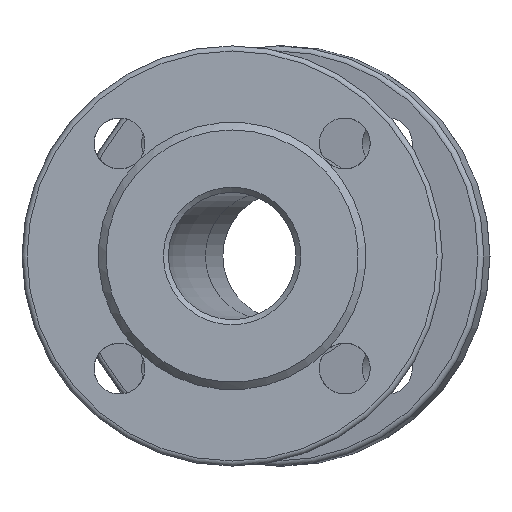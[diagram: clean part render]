
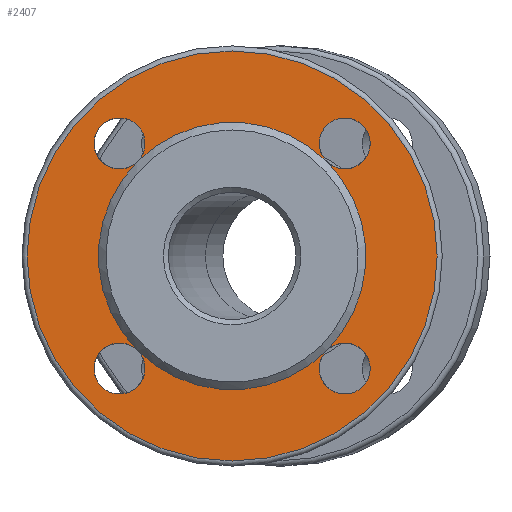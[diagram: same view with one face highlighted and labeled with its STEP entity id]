
A CAD part, left-side view. The second image highlights one B-rep face of the part: STEP entity #2407.
In plain terms, the highlighted planar face has unit normal (-1, 0, 0).
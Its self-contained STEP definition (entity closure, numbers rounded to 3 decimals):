
#76 = EDGE_CURVE ( 'NONE', #3378, #2873, #197, .T. ) ;
#121 = EDGE_CURVE ( 'NONE', #2873, #3102, #927, .T. ) ;
#129 = CIRCLE ( 'NONE', #2744, 10. ) ;
#183 = AXIS2_PLACEMENT_3D ( 'NONE', #574, #2111, #2461 ) ;
#197 = CIRCLE ( 'NONE', #3066, 52.5 ) ;
#230 = CARTESIAN_POINT ( 'NONE',  ( 3., 37.123, -37.123 ) ) ;
#350 = EDGE_CURVE ( 'NONE', #3378, #3378, #1103, .T. ) ;
#426 = CARTESIAN_POINT ( 'NONE',  ( 3., -37.123, -37.123 ) ) ;
#544 = FACE_OUTER_BOUND ( 'NONE', #4730, .T. ) ;
#556 = CARTESIAN_POINT ( 'NONE',  ( 3., -44.194, -44.194 ) ) ;
#574 = CARTESIAN_POINT ( 'NONE',  ( 3., 0., 0. ) ) ;
#676 = DIRECTION ( 'NONE',  ( 0., 0., -1. ) ) ;
#685 = VERTEX_POINT ( 'NONE', #3893 ) ;
#697 = DIRECTION ( 'NONE',  ( 1., 0., 0. ) ) ;
#777 = AXIS2_PLACEMENT_3D ( 'NONE', #556, #2196, #3320 ) ;
#786 = CARTESIAN_POINT ( 'NONE',  ( 3., 44.194, -44.194 ) ) ;
#918 = CARTESIAN_POINT ( 'NONE',  ( 3., 37.123, 37.123 ) ) ;
#927 = CIRCLE ( 'NONE', #4269, 52.5 ) ;
#941 = AXIS2_PLACEMENT_3D ( 'NONE', #1470, #4572, #4213 ) ;
#1080 = AXIS2_PLACEMENT_3D ( 'NONE', #1908, #3413, #4619 ) ;
#1103 = CIRCLE ( 'NONE', #2167, 10. ) ;
#1186 = AXIS2_PLACEMENT_3D ( 'NONE', #3464, #697, #1886 ) ;
#1236 = DIRECTION ( 'NONE',  ( 0., 0., 1. ) ) ;
#1422 = DIRECTION ( 'NONE',  ( -1., 0., 0. ) ) ;
#1470 = CARTESIAN_POINT ( 'NONE',  ( 3., 0., 0. ) ) ;
#1637 = ORIENTED_EDGE ( 'NONE', *, *, #3561, .T. ) ;
#1791 = EDGE_CURVE ( 'NONE', #4836, #4836, #3719, .T. ) ;
#1827 = CIRCLE ( 'NONE', #1080, 52.5 ) ;
#1829 = ORIENTED_EDGE ( 'NONE', *, *, #350, .F. ) ;
#1862 = EDGE_CURVE ( 'NONE', #4836, #3378, #2179, .T. ) ;
#1886 = DIRECTION ( 'NONE',  ( 0., 0., -1. ) ) ;
#1908 = CARTESIAN_POINT ( 'NONE',  ( 3., 0., 0. ) ) ;
#2067 = DIRECTION ( 'NONE',  ( 0., 0., 1. ) ) ;
#2106 = FACE_BOUND ( 'NONE', #4564, .T. ) ;
#2111 = DIRECTION ( 'NONE',  ( -1., 0., 0. ) ) ;
#2167 = AXIS2_PLACEMENT_3D ( 'NONE', #2220, #1422, #3667 ) ;
#2179 = CIRCLE ( 'NONE', #941, 52.5 ) ;
#2196 = DIRECTION ( 'NONE',  ( -1., 0., 0. ) ) ;
#2220 = CARTESIAN_POINT ( 'NONE',  ( 3., 44.194, 44.194 ) ) ;
#2356 = DIRECTION ( 'NONE',  ( -1., 0., 0. ) ) ;
#2407 = ADVANCED_FACE ( 'NONE', ( #544, #2106 ), #3656, .F. ) ;
#2447 = CARTESIAN_POINT ( 'NONE',  ( 3., -37.123, 37.123 ) ) ;
#2461 = DIRECTION ( 'NONE',  ( 0., 0., -1. ) ) ;
#2597 = EDGE_CURVE ( 'NONE', #3102, #4836, #1827, .T. ) ;
#2635 = ORIENTED_EDGE ( 'NONE', *, *, #5030, .F. ) ;
#2674 = CARTESIAN_POINT ( 'NONE',  ( 3., -44.194, 44.194 ) ) ;
#2744 = AXIS2_PLACEMENT_3D ( 'NONE', #786, #2356, #4753 ) ;
#2810 = ORIENTED_EDGE ( 'NONE', *, *, #2597, .F. ) ;
#2873 = VERTEX_POINT ( 'NONE', #230 ) ;
#3001 = CIRCLE ( 'NONE', #777, 10. ) ;
#3066 = AXIS2_PLACEMENT_3D ( 'NONE', #3614, #4301, #2067 ) ;
#3102 = VERTEX_POINT ( 'NONE', #426 ) ;
#3320 = DIRECTION ( 'NONE',  ( 0., 0., -1. ) ) ;
#3358 = ORIENTED_EDGE ( 'NONE', *, *, #76, .F. ) ;
#3378 = VERTEX_POINT ( 'NONE', #918 ) ;
#3413 = DIRECTION ( 'NONE',  ( -1., 0., 0. ) ) ;
#3464 = CARTESIAN_POINT ( 'NONE',  ( 3., 52.5, 0. ) ) ;
#3482 = AXIS2_PLACEMENT_3D ( 'NONE', #2674, #4136, #676 ) ;
#3561 = EDGE_CURVE ( 'NONE', #685, #685, #4583, .T. ) ;
#3614 = CARTESIAN_POINT ( 'NONE',  ( 3., 0., 0. ) ) ;
#3656 = PLANE ( 'NONE',  #1186 ) ;
#3667 = DIRECTION ( 'NONE',  ( 0., 0., -1. ) ) ;
#3680 = ORIENTED_EDGE ( 'NONE', *, *, #1862, .F. ) ;
#3719 = CIRCLE ( 'NONE', #3482, 10. ) ;
#3860 = ORIENTED_EDGE ( 'NONE', *, *, #121, .F. ) ;
#3893 = CARTESIAN_POINT ( 'NONE',  ( 3., 0., -80.5 ) ) ;
#4136 = DIRECTION ( 'NONE',  ( -1., 0., 0. ) ) ;
#4180 = ORIENTED_EDGE ( 'NONE', *, *, #1791, .F. ) ;
#4213 = DIRECTION ( 'NONE',  ( 0., 0., 1. ) ) ;
#4269 = AXIS2_PLACEMENT_3D ( 'NONE', #4372, #4752, #1236 ) ;
#4301 = DIRECTION ( 'NONE',  ( -1., 0., 0. ) ) ;
#4372 = CARTESIAN_POINT ( 'NONE',  ( 3., 0., 0. ) ) ;
#4564 = EDGE_LOOP ( 'NONE', ( #3680, #4180, #2810, #2635, #3860, #4771, #3358, #1829 ) ) ;
#4572 = DIRECTION ( 'NONE',  ( -1., 0., 0. ) ) ;
#4583 = CIRCLE ( 'NONE', #183, 80.5 ) ;
#4619 = DIRECTION ( 'NONE',  ( 0., 0., 1. ) ) ;
#4730 = EDGE_LOOP ( 'NONE', ( #1637 ) ) ;
#4752 = DIRECTION ( 'NONE',  ( -1., 0., 0. ) ) ;
#4753 = DIRECTION ( 'NONE',  ( 0., 0., -1. ) ) ;
#4771 = ORIENTED_EDGE ( 'NONE', *, *, #4919, .F. ) ;
#4836 = VERTEX_POINT ( 'NONE', #2447 ) ;
#4919 = EDGE_CURVE ( 'NONE', #2873, #2873, #129, .T. ) ;
#5030 = EDGE_CURVE ( 'NONE', #3102, #3102, #3001, .T. ) ;
